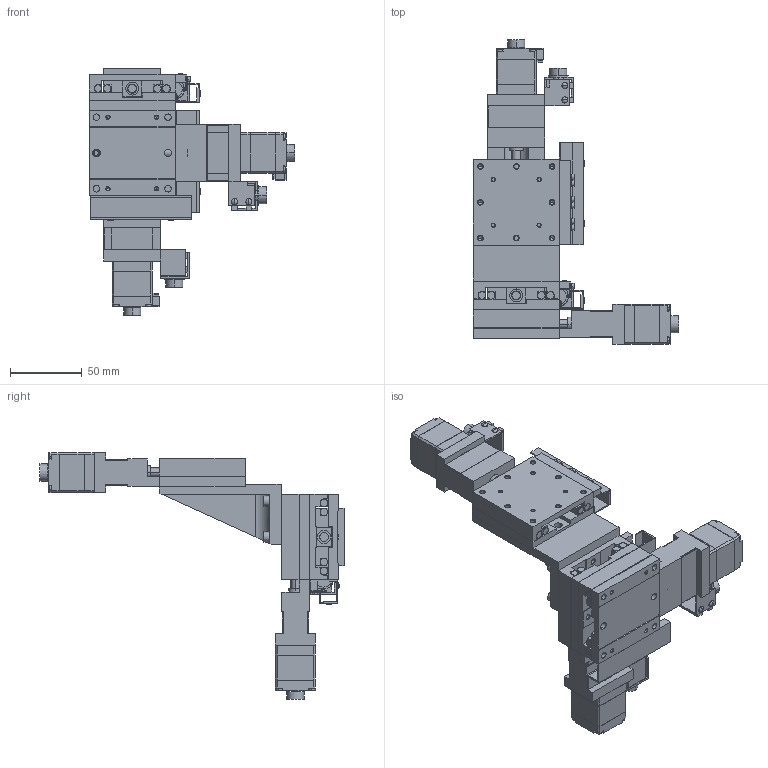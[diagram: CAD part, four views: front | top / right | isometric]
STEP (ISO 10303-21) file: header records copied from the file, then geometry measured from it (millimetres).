
FILE_DESCRIPTION(('STEP AP203'),'1');
FILE_NAME('C:/3D-Trans/3D_PMZG615M-R□-E+240129.step','2024-03-14T06:06:07',(' '),(' '),'Spatial InterOp 3D',' ',' ');
FILE_SCHEMA(('CONFIG_CONTROL_DESIGN'));
Length unit declared in the file: millimetre
Products named in the file (19): 1; 2; 3; 4; 5; 6; 7; 8; 9; 10; 11; 12; 13; 14; 15; 16; 17; 18; 19
Bounding box: 143.5 x 212.5 x 172.5 mm (x, y, z)
Volume: 400766.1 mm3; surface area: 177155.8 mm2
Topology: 19 solids, 19 shells, 1997 faces, 5119 edges, 3243 vertices
Faces by surface type: plane 1193, cylinder 592, cone 200, sphere 12
Entity records: 60823 total; most frequent: DIRECTION 10613, CARTESIAN_POINT 10306, ORIENTED_EDGE 10094, EDGE_CURVE 5047, AXIS2_PLACEMENT_3D 3550, LINE 3513, VECTOR 3513, VERTEX_POINT 3243
